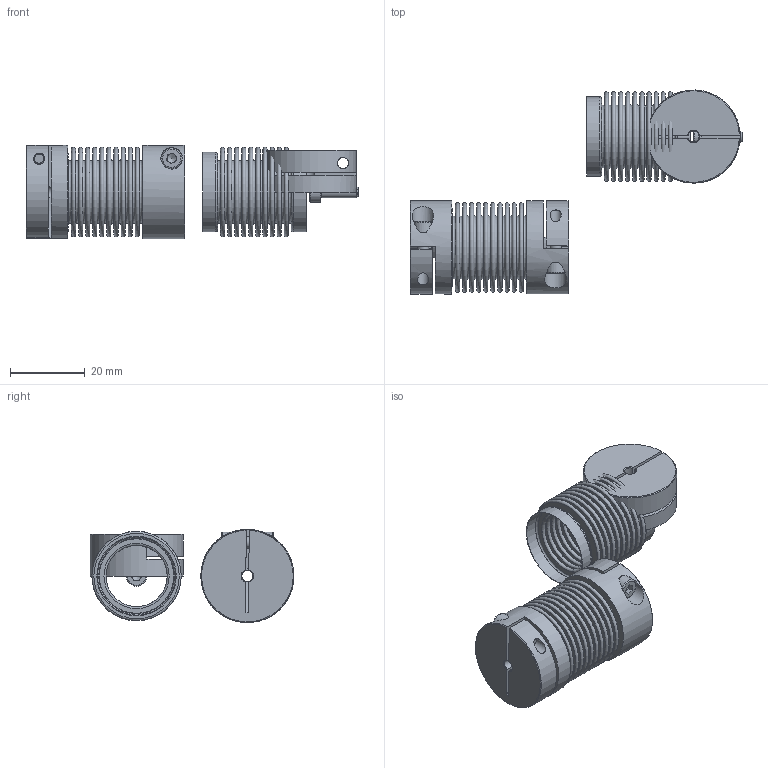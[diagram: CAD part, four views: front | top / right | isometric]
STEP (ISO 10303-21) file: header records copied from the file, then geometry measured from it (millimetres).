
FILE_DESCRIPTION( ( 'Unknown' ), '1' );
FILE_NAME( 'C:/Dokumente und Einstellungen/Sven/Desktop/cad - homepage/KB2/KB2-20-42.stp', 'Unknown', ( 'Unknown' ), ( 'Unknown' ), 'XStep 1.0', 'Unknown', ' ' );
FILE_SCHEMA( ( 'automotive_design' ) );
Length unit declared in the file: millimetre
Products named in the file (4): Assem1; KN20_Standard_1; Socket Head Cap Screw_DIN_DIN 912 M3 x 10 --- 10N_1; BL20_Standard
Bounding box: 89.08 x 54.73 x 24.98 mm (x, y, z)
Volume: 17170.9 mm3; surface area: 33192.3 mm2
Topology: 8 solids, 8 shells, 318 faces, 620 edges, 403 vertices
Faces by surface type: plane 164, torus 98, cylinder 41, cone 15
Full cylindrical faces by diameter (mm): 3 x9, 3.2 x3, 5.5 x3, 21 x4, 21.3 x4, 25 x3
Entity records: 3432 total; most frequent: CARTESIAN_POINT 611, DIRECTION 591, ORIENTED_EDGE 368, AXIS2_PLACEMENT_3D 274, EDGE_LOOP 251, FACE_OUTER_BOUND 195, EDGE_CURVE 184, VERTEX_POINT 158
